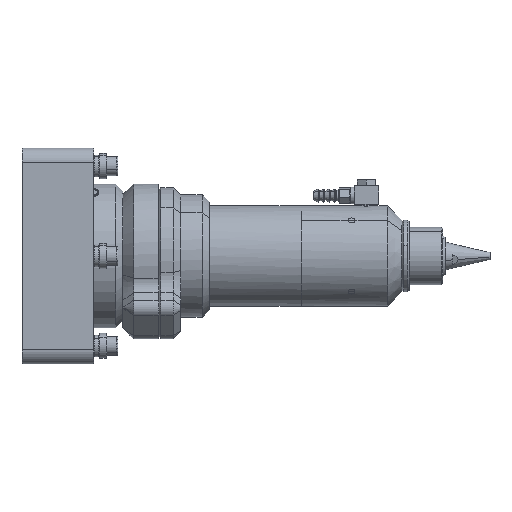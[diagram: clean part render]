
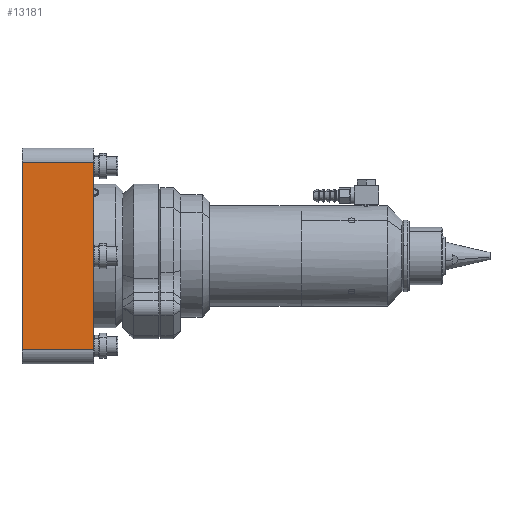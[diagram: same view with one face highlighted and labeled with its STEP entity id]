
A CAD part, left-side view. The second image highlights one B-rep face of the part: STEP entity #13181.
In plain terms, the highlighted planar face has unit normal (-1, 0, 0).
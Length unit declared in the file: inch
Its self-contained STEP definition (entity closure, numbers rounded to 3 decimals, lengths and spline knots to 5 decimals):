
#509 = LINE ( 'NONE', #14873, #9628 ) ;
#1016 = DIRECTION ( 'NONE',  ( 1., 0., 0. ) ) ;
#2586 = DIRECTION ( 'NONE',  ( 0., 1., 0. ) ) ;
#3081 = EDGE_CURVE ( 'Defeatured_0_14+Defeatured_0_15+Defeatured_0_23+Defeatured_0_24', #9745, #5669, #6955, .T. ) ;
#3910 = VERTEX_POINT ( 'NONE', #20410 ) ;
#4993 = EDGE_LOOP ( 'NONE', ( #15565, #13719, #7163, #18172 ) ) ;
#5513 = CARTESIAN_POINT ( 'NONE',  ( -1.875, 1.25, -1.875 ) ) ;
#5669 = VERTEX_POINT ( 'NONE', #12284 ) ;
#5912 = CARTESIAN_POINT ( 'NONE',  ( -1.875, 0., -1.875 ) ) ;
#6031 = CARTESIAN_POINT ( 'NONE',  ( -1.875, 1.25, -1.625 ) ) ;
#6955 = LINE ( 'NONE', #5513, #19585 ) ;
#7123 = DIRECTION ( 'NONE',  ( 0., 0., 1. ) ) ;
#7144 = FACE_OUTER_BOUND ( 'NONE', #4993, .T. ) ;
#7163 = ORIENTED_EDGE ( 'NONE', *, *, #17908, .T. ) ;
#8143 = EDGE_CURVE ( 'Defeatured_0_15+Defeatured_0_23+Defeatured_0_14+Defeatured_0_19', #9745, #3910, #16883, .T. ) ;
#8348 = VECTOR ( 'NONE', #19251, 39.37008 ) ;
#8963 = CARTESIAN_POINT ( 'NONE',  ( -1.875, 1.25, -1.625 ) ) ;
#9628 = VECTOR ( 'NONE', #2586, 39.37008 ) ;
#9677 = LINE ( 'NONE', #5912, #8348 ) ;
#9745 = VERTEX_POINT ( 'NONE', #8963 ) ;
#11419 = EDGE_CURVE ( 'Defeatured_0_15+Defeatured_0_24+Defeatured_0_19+Defeatured_0_14', #12034, #5669, #509, .T. ) ;
#12034 = VERTEX_POINT ( 'NONE', #15256 ) ;
#12284 = CARTESIAN_POINT ( 'NONE',  ( -1.875, 1.25, 1.625 ) ) ;
#12612 = CARTESIAN_POINT ( 'NONE',  ( -1.875, 1.25, -1.875 ) ) ;
#13181 = ADVANCED_FACE ( 'Defeatured_0_15', ( #7144 ), #20889, .F. ) ;
#13719 = ORIENTED_EDGE ( 'NONE', *, *, #8143, .T. ) ;
#14873 = CARTESIAN_POINT ( 'NONE',  ( -1.875, 1.25, 1.625 ) ) ;
#15256 = CARTESIAN_POINT ( 'NONE',  ( -1.875, 0., 1.625 ) ) ;
#15565 = ORIENTED_EDGE ( 'NONE', *, *, #3081, .F. ) ;
#16364 = VECTOR ( 'NONE', #20942, 39.37008 ) ;
#16883 = LINE ( 'NONE', #6031, #16364 ) ;
#17908 = EDGE_CURVE ( 'Defeatured_0_15+Defeatured_0_19+Defeatured_0_23+Defeatured_0_24', #3910, #12034, #9677, .T. ) ;
#18172 = ORIENTED_EDGE ( 'NONE', *, *, #11419, .T. ) ;
#19097 = AXIS2_PLACEMENT_3D ( 'NONE', #12612, #1016, #20819 ) ;
#19251 = DIRECTION ( 'NONE',  ( 0., 0., 1. ) ) ;
#19585 = VECTOR ( 'NONE', #7123, 39.37008 ) ;
#20410 = CARTESIAN_POINT ( 'NONE',  ( -1.875, 0., -1.625 ) ) ;
#20819 = DIRECTION ( 'NONE',  ( 0., 0., -1. ) ) ;
#20889 = PLANE ( 'NONE',  #19097 ) ;
#20942 = DIRECTION ( 'NONE',  ( 0., -1., 0. ) ) ;
